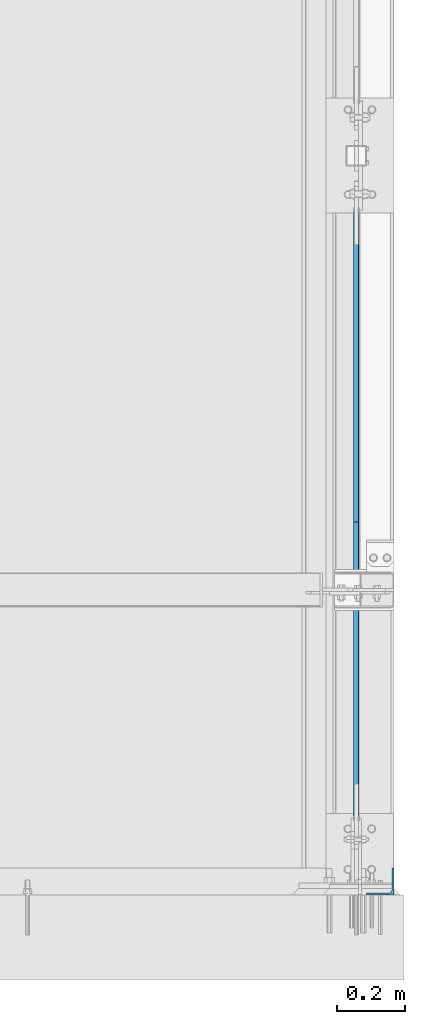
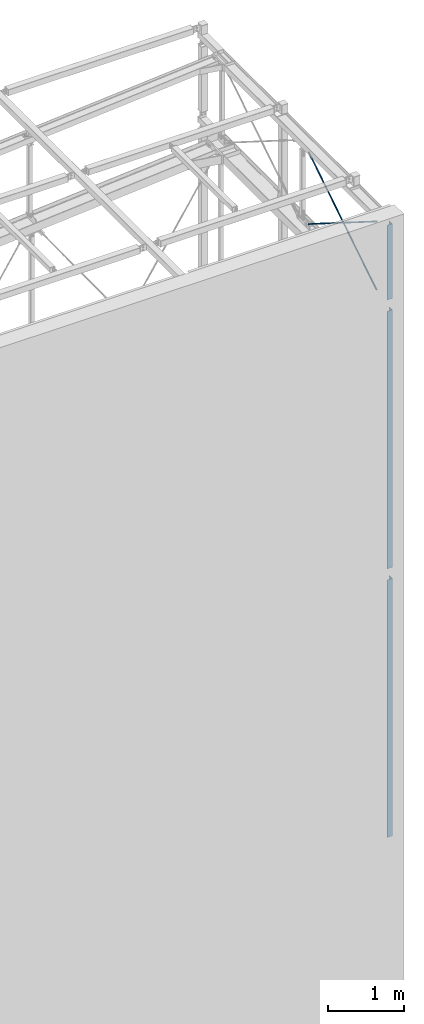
# One storey, part 39 of 271: 3 beams, 2 members, 5 elements without a shape of their own.
"""IFC2X3 building model written with IfcOpenShell, lengths in millimetres."""

from ifc_helpers import new_model, si_unit, frame, origin_with_axes, origin_2d_with_axis, place, context, subcontext, project, spatial, circle, l_section, extrude, clip, halfspace, material, type_object, element, aggregate, save


model = new_model("IFC2X3")

# Units and contexts
model_context = context("Model", 3, precision=1e-05, world=origin_with_axes())
body_context = subcontext(model_context, "Body", "Model", "MODEL_VIEW")
ifc_project = project(units=[si_unit("LENGTHUNIT", "METRE", prefix="MILLI"), si_unit("AREAUNIT", "SQUARE_METRE"), si_unit("VOLUMEUNIT", "CUBIC_METRE"), si_unit("MASSUNIT", "GRAM", prefix="KILO"), si_unit("TIMEUNIT", "SECOND"), si_unit("PLANEANGLEUNIT", "RADIAN"), si_unit("SOLIDANGLEUNIT", "STERADIAN"), si_unit("THERMODYNAMICTEMPERATUREUNIT", "DEGREE_CELSIUS"), si_unit("LUMINOUSINTENSITYUNIT", "LUMEN")], contexts=[model_context])

# Site, building, storey
site_placement = place(None, origin_with_axes())
site = spatial("IfcSite", under=ifc_project, at=site_placement, Name="Undefined", CompositionType="ELEMENT")
building_placement = place(site_placement, origin_with_axes())
building = spatial("IfcBuilding", under=site, at=building_placement, Name="Undefined", CompositionType="ELEMENT")
storey_placement = place(building_placement, origin_with_axes())
storey = spatial("IfcBuildingStorey", under=building, at=storey_placement, Name="Undefined", CompositionType="ELEMENT", Elevation=0.0)

# Assembly, member
assembly_1_placement = place(storey_placement, origin_with_axes())
assembly_1 = element("IfcElementAssembly", 1, at=assembly_1_placement, inside=storey, AssemblyPlace="NOTDEFINED", PredefinedType="RIGID_FRAME")
ifc_material = material(Name="STEEL/S355JR")
member_type = type_object("IfcMemberType", Name="D16", PredefinedType="NOTDEFINED")
member_1_placement = place(assembly_1_placement, frame((12597.751374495, 21.1935505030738, 18644.3499999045), z_axis=(0.0, 0.533166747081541, -0.846010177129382), x_axis=(0.0, 0.846010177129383, 0.533166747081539)))
member_1 = element("IfcMember", 2, at=member_1_placement, type_object=member_type, material=ifc_material, Name="STĘŻENIE", ObjectType="D16", context=body_context, shape_type="Clipping", body=[
    clip(clip(extrude(circle(Radius=8.0, at=origin_2d_with_axis()), frame((2550.79673827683, 0.0, 0.0), z_axis=(-1.0, 0.0, 1.38777878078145e-17), x_axis=(0.0, -1.0, 0.0)), (0.0, 0.0, 1.0), 2550.8), halfspace(frame((2358.77795684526, 17.9999996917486, 1.89174897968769e-10), z_axis=(-1.0, 0.0, 1.38777878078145e-17), x_axis=(0.0, 0.0, 1.0)), True)), halfspace(frame((244.398133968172, -16.0000003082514, -2.20097717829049e-10), z_axis=(1.0, 0.0, 0.0), x_axis=(0.0, 0.0, 1.0)), True)),
])
aggregate(assembly_1, [member_1])

assembly_2_placement = place(storey_placement, origin_with_axes())
assembly_2 = element("IfcElementAssembly", 3, at=assembly_2_placement, inside=storey, AssemblyPlace="NOTDEFINED", PredefinedType="RIGID_FRAME")
member_2_placement = place(assembly_2_placement, frame((12597.751374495, 2179.19355050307, 18644.3499999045), z_axis=(0.0, 0.533166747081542, 0.846010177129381), x_axis=(0.0, -0.846010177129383, 0.533166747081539)))
member_2 = element("IfcMember", 4, at=member_2_placement, type_object=member_type, material=ifc_material, Name="STĘŻENIE", ObjectType="D16", context=body_context, shape_type="Clipping", body=[
    clip(clip(extrude(circle(Radius=8.0, at=origin_2d_with_axis()), frame((2550.79673827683, 0.0, 0.0), z_axis=(-1.0, 0.0, 1.38777878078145e-17), x_axis=(0.0, -1.0, 0.0)), (0.0, 0.0, 1.0), 2550.8), halfspace(frame((2307.61773324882, 15.9999996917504, -2.11002770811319e-10), z_axis=(-1.0, 0.0, 1.38777878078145e-17), x_axis=(0.0, 0.0, 1.0)), True)), halfspace(frame((193.237911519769, 17.9999996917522, 1.92812876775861e-10), z_axis=(1.0, 0.0, 0.0), x_axis=(0.0, 0.0, -1.0)), True)),
])
aggregate(assembly_2, [member_2])

# Assembly, beam
assembly_3_placement = place(storey_placement, origin_with_axes())
assembly_3 = element("IfcElementAssembly", 5, at=assembly_3_placement, inside=storey, AssemblyPlace="NOTDEFINED", PredefinedType="RIGID_FRAME")
beam_type = type_object("IfcBeamType", Name="L80*80*6", PredefinedType="NOTDEFINED")
beam_1_placement = place(assembly_3_placement, frame((12668.3756870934, 39.3249842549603, 10094.3499999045), z_axis=(0.0, 1.0, 0.0), x_axis=(0.0, 0.0, 1.0)))
beam_1 = element("IfcBeam", 6, at=beam_1_placement, type_object=beam_type, material=ifc_material, Name="KĄTOWNIK", ObjectType="L80*80*6", context=body_context, shape_type="SweptSolid", body=[
    extrude(l_section(Depth=80.0, Width=80.0, Thickness=6.0, FilletRadius=9.0, at=origin_2d_with_axis()), frame((4140.0, 0.0, 0.0), z_axis=(-1.0, 0.0, 1.38777878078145e-17), x_axis=(0.0, -1.0, 0.0)), (0.0, 0.0, 1.0), 4140.0),
])
aggregate(assembly_3, [beam_1])

assembly_4_placement = place(storey_placement, origin_with_axes())
assembly_4 = element("IfcElementAssembly", 7, at=assembly_4_placement, inside=storey, AssemblyPlace="NOTDEFINED", PredefinedType="RIGID_FRAME")
beam_2_placement = place(assembly_4_placement, frame((12668.3756870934, 39.3249842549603, 14414.3499999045), z_axis=(0.0, 1.0, 0.0), x_axis=(0.0, 0.0, 1.0)))
beam_2 = element("IfcBeam", 8, at=beam_2_placement, type_object=beam_type, material=ifc_material, Name="KĄTOWNIK", ObjectType="L80*80*6", context=body_context, shape_type="SweptSolid", body=[
    extrude(l_section(Depth=80.0, Width=80.0, Thickness=6.0, FilletRadius=9.0, at=origin_2d_with_axis()), frame((4140.0, 0.0, 0.0), z_axis=(-1.0, 0.0, 1.38777878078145e-17), x_axis=(0.0, -1.0, 0.0)), (0.0, 0.0, 1.0), 4140.0),
])
aggregate(assembly_4, [beam_2])

assembly_5_placement = place(storey_placement, origin_with_axes())
assembly_5 = element("IfcElementAssembly", 9, at=assembly_5_placement, inside=storey, AssemblyPlace="NOTDEFINED", PredefinedType="RIGID_FRAME")
beam_3_placement = place(assembly_5_placement, frame((12668.3756870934, 39.3249842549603, 18734.3499999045), z_axis=(0.0, 1.0, 0.0), x_axis=(0.0, 0.0, 1.0)))
beam_3 = element("IfcBeam", 10, at=beam_3_placement, type_object=beam_type, material=ifc_material, Name="KĄTOWNIK", ObjectType="L80*80*6", context=body_context, shape_type="SweptSolid", body=[
    extrude(l_section(Depth=80.0, Width=80.0, Thickness=6.0, FilletRadius=9.0, at=origin_2d_with_axis()), frame((1205.0, 0.0, 0.0), z_axis=(-1.0, 0.0, 1.38777878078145e-17), x_axis=(0.0, -1.0, 0.0)), (0.0, 0.0, 1.0), 1205.0),
])
aggregate(assembly_5, [beam_3])

save(model, "model.ifc")
